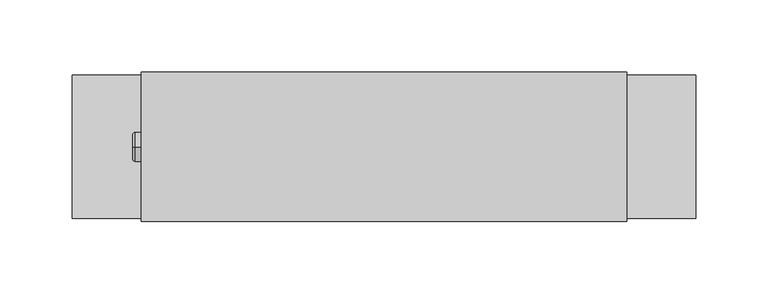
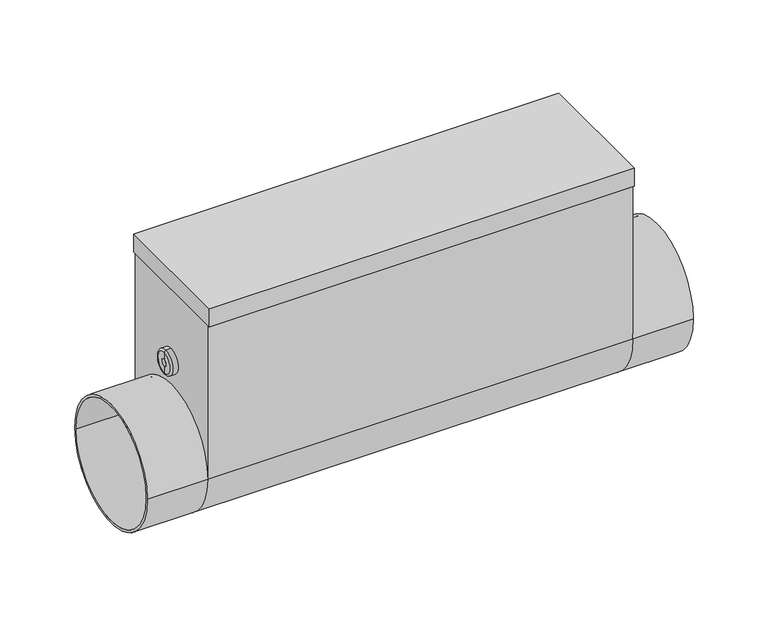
"""IFC4 building model written with IfcOpenShell, lengths in millimetres: proxy geometry, СВ_ВоздухонагревательЭлектрический_КанальныйКруглый_DN100-315_SKH-E : SKH-E-100/2,5."""

from ifc_helpers import new_model, si_unit, point, frame, origin, place, context, project, spatial, polyline, circle_curve, ellipse_curve, trimmed, outline, extrude, source, transform, mapped, element, save
from ifc_brep_helpers import plane_surface, cylinder_surface, revolved_surface, advanced_brep


def mechanical_equipment_c20731e0(model_context):
    return source(origin(), model_context, "Body", "SolidModel", [
        extrude(outline(polyline([(167.5, -51.5), (-167.5, -51.5), (-167.5, 51.5), (167.5, 51.5), (167.5, -51.5)])), frame((0.0, 0.0, 128.5), z_axis=(0.0, 0.0, 1.0), x_axis=(1.0, 0.0, 0.0)), (0.0, 0.0, 1.0), 15.0),
        advanced_brep(
        [(-215.0, -49.5, 0.0), (-215.0, 49.5, 0.0), (-215.0, -47.5, 0.0), (-215.0, 47.5, 0.0), (-167.5, 47.5, 0.0), (-167.5, -47.5, 0.0), (-167.5, 49.5, 0.0), (-167.5, -49.5, 0.0), (167.5, -47.5, 0.0), (167.5, 47.5, 0.0), (167.5, -49.5, 128.5), (167.5, -49.5, 0.0), (167.5, 49.5, 0.0), (167.5, 49.5, 128.5), (-167.5, -49.5, 128.5), (-167.5, 49.5, 128.5), (215.0, -49.5, 0.0), (215.0, 49.5, 0.0), (215.0, -47.5, 0.0), (215.0, 47.5, 0.0)],
        [
            (0, 1, circle_curve(frame((-215.0, 0.0, 0.0), z_axis=(-1.0, 0.0, 0.0), x_axis=(0.0, 1.0, 0.0)), 49.5)),
            (1, 0, circle_curve(frame((-215.0, 0.0, 0.0), z_axis=(-1.0, 0.0, 0.0), x_axis=(0.0, 1.0, 0.0)), 49.5)),
            (2, 3, circle_curve(frame((-215.0, 0.0, 0.0), z_axis=(1.0, 0.0, 0.0), x_axis=(0.0, 1.0, 0.0)), 47.5)),
            (3, 2, circle_curve(frame((-215.0, 0.0, 0.0), z_axis=(1.0, 0.0, 0.0), x_axis=(0.0, 1.0, 0.0)), 47.5)),
            (3, 4),
            (4, 5, circle_curve(frame((-167.5, 0.0, 0.0), z_axis=(1.0, 0.0, 0.0), x_axis=(0.0, 1.0, 0.0)), 47.5)),
            (5, 2),
            (5, 4, circle_curve(frame((-167.5, 0.0, 0.0), z_axis=(1.0, 0.0, 0.0), x_axis=(0.0, 1.0, 0.0)), 47.5)),
            (1, 6),
            (6, 7, circle_curve(frame((-167.5, 0.0, 0.0), z_axis=(-1.0, 0.0, 0.0), x_axis=(0.0, 1.0, 0.0)), 49.5)),
            (7, 0),
            (7, 6, circle_curve(frame((-167.5, 0.0, 0.0), z_axis=(-1.0, 0.0, 0.0), x_axis=(0.0, 1.0, 0.0)), 49.5)),
            (8, 9, circle_curve(frame((167.5, 0.0, 0.0), z_axis=(1.0, 0.0, 0.0), x_axis=(0.0, 1.0, 0.0)), 47.5)),
            (9, 8, circle_curve(frame((167.5, 0.0, 0.0), z_axis=(1.0, 0.0, 0.0), x_axis=(0.0, 1.0, 0.0)), 47.5)),
            (10, 11),
            (11, 12, circle_curve(frame((167.5, 0.0, 0.0), z_axis=(-1.0, 0.0, 0.0), x_axis=(0.0, 1.0, 0.0)), 49.5)),
            (12, 13),
            (13, 10),
            (7, 14),
            (14, 15),
            (15, 6),
            (6, 12),
            (12, 11, circle_curve(frame((167.5, 0.0, 0.0), z_axis=(-1.0, 0.0, 0.0), x_axis=(0.0, 1.0, 0.0)), 49.5)),
            (11, 7),
            (16, 17, circle_curve(frame((215.0, 0.0, 0.0), z_axis=(1.0, 0.0, 0.0), x_axis=(0.0, 1.0, 0.0)), 49.5)),
            (17, 16, circle_curve(frame((215.0, 0.0, 0.0), z_axis=(1.0, 0.0, 0.0), x_axis=(0.0, 1.0, 0.0)), 49.5)),
            (18, 19, circle_curve(frame((215.0, 0.0, 0.0), z_axis=(-1.0, 0.0, 0.0), x_axis=(0.0, 1.0, 0.0)), 47.5)),
            (19, 18, circle_curve(frame((215.0, 0.0, 0.0), z_axis=(-1.0, 0.0, 0.0), x_axis=(0.0, 1.0, 0.0)), 47.5)),
            (18, 8),
            (9, 19),
            (16, 11),
            (12, 17),
            (10, 14),
            (15, 13),
        ],
        [
            plane_surface(frame((-215.0, 47.5, 0.0), z_axis=(-1.0, 0.0, 0.0), x_axis=(0.0, 0.0, 1.0))),
            revolved_surface(polyline([(-215.0, 47.5, 0.0), (-167.5, 47.5, 0.0)]), (-215.0, 0.0, 0.0), (-1.0, 0.0, 0.0)),
            cylinder_surface(frame((0.0, 0.0, 0.0), z_axis=(1.0, 0.0, 0.0), x_axis=(0.0, 1.0, 0.0)), 49.5),
            plane_surface(frame((167.5, 49.5, 0.0), z_axis=(1.0, 0.0, 0.0), x_axis=(0.0, -1.0, 0.0))),
            plane_surface(frame((-167.5, 49.5, 0.0), z_axis=(-1.0, 0.0, 0.0), x_axis=(0.0, 1.0, 0.0))),
            cylinder_surface(frame((-167.5, 0.0, 0.0), z_axis=(1.0, 0.0, 0.0), x_axis=(0.0, 1.0, 0.0)), 49.5),
            plane_surface(frame((215.0, 47.5, 0.0), z_axis=(1.0, 0.0, 0.0), x_axis=(0.0, 0.0, -1.0))),
            revolved_surface(polyline([(167.5, 47.5, 0.0), (215.0, 47.5, 0.0)]), (167.5, 0.0, 0.0), (-1.0, 0.0, 0.0)),
            plane_surface(frame((-167.5, -49.5, 128.5), z_axis=(0.0, -1.0, 0.0), x_axis=(-1.0, 0.0, 0.0))),
            plane_surface(frame((-167.5, 49.5, 128.5), z_axis=(0.0, 1.0, 0.0), x_axis=(1.0, 0.0, 0.0))),
            plane_surface(frame((167.5, -49.5, 128.5), z_axis=(0.0, 0.0, 1.0), x_axis=(0.0, 1.0, 0.0))),
        ],
        [
            (0, [[1, 2], [3, 4]]),
            (1, [[-4, 5, 6, 7]]),
            (1, [[-3, -7, 8, -5]]),
            (2, [[-2, 9, 10, 11]]),
            (2, [[-1, -11, 12, -9]]),
            (3, [[13, 14]]),
            (3, [[15, 16, 17, 18]]),
            (4, [[-8, -6]]),
            (4, [[19, 20, 21, -12]]),
            (5, [[-10, 22, 23, 24]]),
            (6, [[25, 26], [27, 28]]),
            (7, [[-27, 29, -14, 30]]),
            (7, [[-28, -30, -13, -29]]),
            (2, [[-25, 31, -23, 32]]),
            (2, [[-26, -32, -16, -31]]),
            (8, [[33, -19, -24, -15]]),
            (9, [[-17, -22, -21, 34]]),
            (10, [[-33, -18, -34, -20]]),
        ],
    ),
        advanced_brep(
        [(-171.7840134, 0.0, 59.5), (-171.7840134, 0.0, 79.5), (-167.5, 0.0, 79.5), (-167.5, 0.0, 59.5), (-173.2459771, 0.0, 60.9619637), (-173.2459771, 0.0, 78.0380363), (-173.2459771, 0.0, 66.3948071), (-173.2459771, 0.0, 72.6051929), (-170.9138357, 0.0, 66.3948071), (-170.9138357, 0.0, 72.6051929), (-170.9138357, 0.0, 69.5), (-167.5, 0.0, 69.5)],
        [
            (0, 1, circle_curve(frame((-171.7840134, 0.0, 69.5), z_axis=(1.0, 0.0, 0.0), x_axis=(0.0, 0.0, 1.0)), 10.0)),
            (1, 2),
            (2, 3, circle_curve(frame((-167.5, 0.0, 69.5), z_axis=(-1.0, 0.0, 0.0), x_axis=(0.0, 0.0, 1.0)), 10.0)),
            (3, 0),
            (1, 0, circle_curve(frame((-171.7840134, 0.0, 69.5), z_axis=(1.0, 0.0, 0.0), x_axis=(0.0, 0.0, 1.0)), 10.0)),
            (3, 2, circle_curve(frame((-167.5, 0.0, 69.5), z_axis=(-1.0, 0.0, 0.0), x_axis=(0.0, 0.0, 1.0)), 10.0)),
            (4, 5, circle_curve(frame((-173.2459771, 0.0, 69.5), z_axis=(1.0, 0.0, 0.0), x_axis=(0.0, 0.0, 1.0)), 8.5380363)),
            (5, 1, circle_curve(frame((-171.7840134, 0.0, 78.0380363), z_axis=(0.0, 1.0, 0.0), x_axis=(1.0, 0.0, 0.0)), 1.4619637)),
            (0, 4, circle_curve(frame((-171.7840134, 0.0, 60.9619637), z_axis=(0.0, 1.0, 0.0), x_axis=(1.0, 0.0, 0.0)), 1.4619637)),
            (5, 4, circle_curve(frame((-173.2459771, 0.0, 69.5), z_axis=(1.0, 0.0, 0.0), x_axis=(0.0, 0.0, 1.0)), 8.5380363)),
            (6, 7, circle_curve(frame((-173.2459771, 0.0, 69.5), z_axis=(1.0, 0.0, 0.0), x_axis=(0.0, 0.0, 1.0)), 3.1051929)),
            (7, 5),
            (4, 6),
            (7, 6, circle_curve(frame((-173.2459771, 0.0, 69.5), z_axis=(1.0, 0.0, 0.0), x_axis=(0.0, 0.0, 1.0)), 3.1051929)),
            (8, 9, circle_curve(frame((-170.9138357, 0.0, 69.5), z_axis=(1.0, 0.0, 0.0), x_axis=(0.0, 0.0, 1.0)), 3.1051929)),
            (9, 7),
            (6, 8),
            (9, 8, circle_curve(frame((-170.9138357, 0.0, 69.5), z_axis=(1.0, 0.0, 0.0), x_axis=(0.0, 0.0, 1.0)), 3.1051929)),
            (10, 9),
            (8, 10),
            (2, 11),
            (11, 3),
        ],
        [
            cylinder_surface(frame((-203.1635229, 0.0, 69.5), z_axis=(-1.0, 0.0, 0.0), x_axis=(0.0, 0.0, 1.0)), 10.0),
            revolved_surface(trimmed(ellipse_curve(frame((-171.7840134, 0.0, 78.0380363), z_axis=(0.0, -1.0, 0.0), x_axis=(1.0, 0.0, 0.0)), 1.4619637, 1.4619637), [point((-171.7840134, 0.0, 79.5))], [point((-173.2459771, 0.0, 78.0380363))], True, "CARTESIAN"), (-203.1635229, 0.0, 69.5), (-1.0, 0.0, 0.0)),
            plane_surface(frame((-173.2459771, 0.0, 69.5), z_axis=(-1.0, 0.0, 0.0), x_axis=(0.0, 0.0, 1.0))),
            revolved_surface(polyline([(-173.2459771, 0.0, 72.6051929), (-170.9138357, 0.0, 72.6051929)]), (-203.1635229, 0.0, 69.5), (-1.0, 0.0, 0.0)),
            plane_surface(frame((-170.9138357, 0.0, 69.5), z_axis=(-1.0, 0.0, 0.0), x_axis=(0.0, 0.0, 1.0))),
            plane_surface(frame((-167.5, 0.0, 69.5), z_axis=(1.0, 0.0, 0.0), x_axis=(0.0, 0.0, 1.0))),
        ],
        [
            (0, [[1, 2, 3, 4]]),
            (0, [[5, -4, 6, -2]]),
            (1, [[7, 8, -1, 9]]),
            (1, [[10, -9, -5, -8]]),
            (2, [[11, 12, -7, 13]]),
            (2, [[14, -13, -10, -12]]),
            (3, [[15, 16, -11, 17]]),
            (3, [[18, -17, -14, -16]]),
            (4, [[19, -15, 20]]),
            (4, [[-20, -18, -19]]),
            (5, [[-3, 21, 22]]),
            (5, [[-6, -22, -21]]),
        ],
    ),
    ])


if __name__ == "__main__":
    model = new_model("IFC4")
    model_context = context("Model", 3, world=origin())
    ifc_project = project(units=[si_unit("LENGTHUNIT", "METRE", prefix="MILLI")], contexts=[model_context])
    site = spatial("IfcSite", under=ifc_project)
    building = spatial("IfcBuilding", under=site)
    placement = place(None, origin())
    mechanical_equipment_shape = mechanical_equipment_c20731e0(model_context)
    element("IfcBuildingElementProxy", 1, Name="СВ_ВоздухонагревательЭлектрический_КанальныйКруглый_DN100-315_SKH-E : SKH-E-100/2,5", ObjectType="СВ_ВоздухонагревательЭлектрический_КанальныйКруглый_DN100-315_SKH-E : SKH-E-100/2,5", at=placement, inside=building, context=model_context, shape_type="MappedRepresentation", body=[
        mapped(mechanical_equipment_shape, transform((0.0, 0.0, 0.0), x_axis=(1.0, 0.0, 0.0), y_axis=(0.0, 1.0, 0.0), z_axis=(0.0, 0.0, 1.0))),
    ])
    save(model, "model.ifc")
